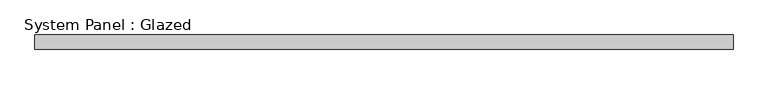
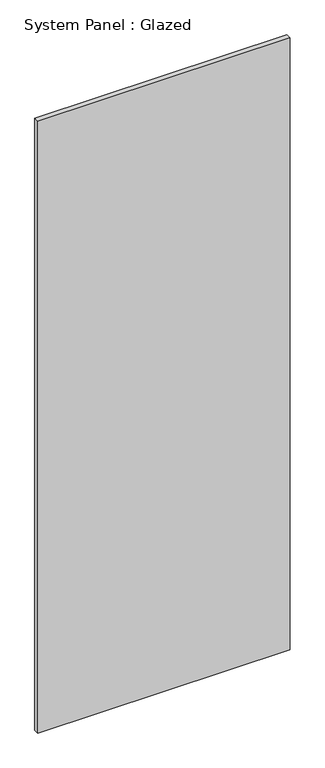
"""IFC4 building model written with IfcOpenShell, lengths in millimetres: plate geometry, System Panel : Glazed."""

from ifc_helpers import new_model, si_unit, origin, origin_with_axes, place, context, project, spatial, polyline, outline, extrude, source, transform, mapped, element, save


def system_panel_glazed_f7285a28(model_context):
    return source(origin(), model_context, "Body", "SweptSolid", [
        extrude(outline(polyline([(604.8481175, -12.5), (-604.8481175, -12.5), (-604.8481175, 12.5), (604.8481175, 12.5), (604.8481175, -12.5)])), origin_with_axes(), (0.0, 0.0, 1.0), 3100.0),
    ])


if __name__ == "__main__":
    model = new_model("IFC4")
    model_context = context("Model", 3, world=origin())
    ifc_project = project(units=[si_unit("LENGTHUNIT", "METRE", prefix="MILLI")], contexts=[model_context])
    site = spatial("IfcSite", under=ifc_project)
    building = spatial("IfcBuilding", under=site)
    placement = place(None, origin())
    system_panel_glazed_shape = system_panel_glazed_f7285a28(model_context)
    element("IfcPlate", 1, ObjectType="System Panel : Glazed", at=placement, inside=building, context=model_context, shape_type="MappedRepresentation", body=[
        mapped(system_panel_glazed_shape, transform((0.0, 0.0, 0.0), x_axis=(1.0, 0.0, 0.0), y_axis=(0.0, 1.0, 0.0), z_axis=(0.0, 0.0, 1.0))),
    ])
    save(model, "model.ifc")
